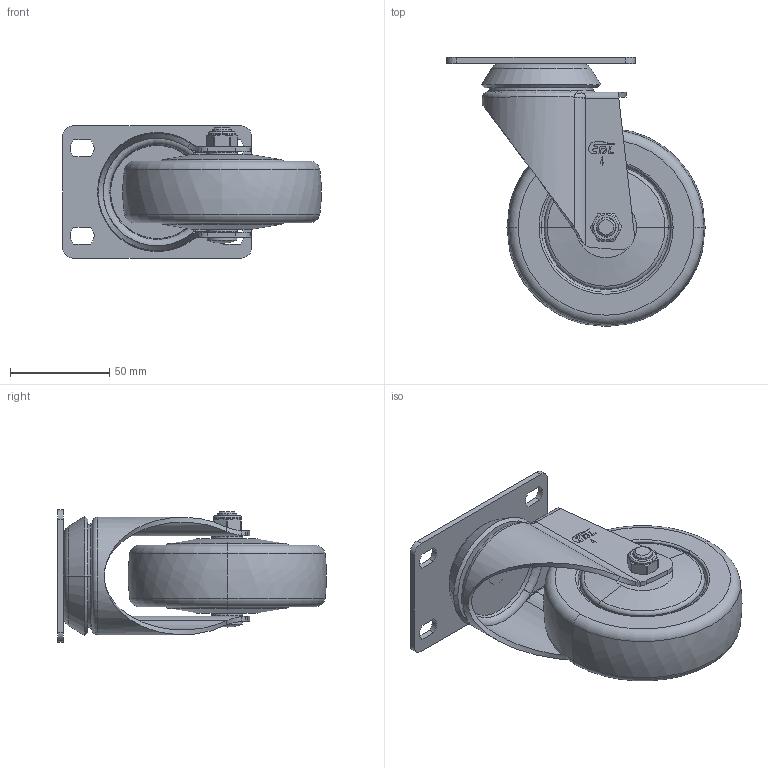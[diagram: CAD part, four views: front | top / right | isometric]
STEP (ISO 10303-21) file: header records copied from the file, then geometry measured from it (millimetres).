
FILE_DESCRIPTION((''),'2;1');
FILE_NAME('57214-574-77_ASM','2021-01-05T',('lenovo'),(''),'PRO/ENGINEER BY PARAMETRIC TECHNOLOGY CORPORATION, 2010280','PRO/ENGINEER BY PARAMETRIC TECHNOLOGY CORPORATION, 2010280','');
FILE_SCHEMA(('CONFIG_CONTROL_DESIGN'));
Length unit declared in the file: millimetre
Products named in the file (7): 5710-201; 5724-311; 5720-211; 574-77; 5710-020; 5710-031; 57214-574-77_ASM
Assembly tree (6 placements, depth 2):
  57214-574-77_ASM
    5710-201
    5724-311
    5720-211
    574-77
    5710-020
    5710-031
Bounding box: 130.11 x 135.41 x 66.5 mm (x, y, z)
Volume: 321807 mm3; surface area: 76975.2 mm2
Topology: 6 solids, 6 shells, 279 faces, 666 edges, 406 vertices
Faces by surface type: plane 99, cylinder 72, torus 43, cone 36, bspline 27, sphere 2
Entity records: 9195 total; most frequent: CARTESIAN_POINT 2625, DIRECTION 1396, ORIENTED_EDGE 1312, EDGE_CURVE 656, AXIS2_PLACEMENT_3D 552, VERTEX_POINT 404, EDGE_LOOP 310, VECTOR 292
